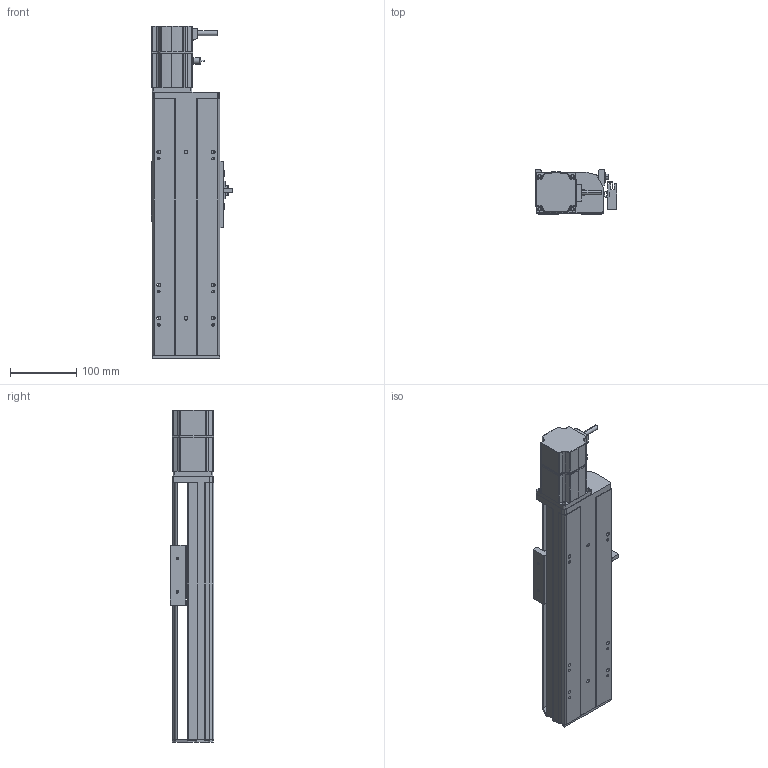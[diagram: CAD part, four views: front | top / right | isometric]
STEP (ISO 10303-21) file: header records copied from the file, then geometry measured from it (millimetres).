
FILE_DESCRIPTION (( 'STEP AP203' ), '1' );
FILE_NAME ('XYH10-BC-150.STEP', '2023-02-25T09:08:31', ( '微软用户' ), ( '微软中国' ), 'SwSTEP 2.0', 'SolidWorks 2016', '' );
FILE_SCHEMA (( 'CONFIG_CONTROL_DESIGN' ));
Length unit declared in the file: millimetre
Products named in the file (8): _X2_514996FB56FA5B9A689D_X0_100mm; 672; D10_X2_514996FB611F61C97247_X0_; ETH10_X2_6ED15EA7_X0_; XYH10-GY-001耜醱啣; XYH10-BC-150; ETH10-_X2_672C9AD4_X0_-BC-200W; _X2_4E0983F1_X0_200W
Assembly tree (7 placements, depth 2):
  XYH10-BC-150
    ETH10-_X2_672C9AD4_X0_-BC-200W
    _X2_4E0983F1_X0_200W
    _X2_514996FB56FA5B9A689D_X0_100mm
    672
    D10_X2_514996FB611F61C97247_X0_
    ETH10_X2_6ED15EA7_X0_
    XYH10-GY-001耜醱啣
Bounding box: 123.2 x 66 x 499.5 mm (x, y, z)
Volume: 1417124.4 mm3; surface area: 320749.5 mm2
Topology: 8 solids, 8 shells, 714 faces, 1862 edges, 1188 vertices
Faces by surface type: cylinder 314, plane 303, bspline 79, cone 12, torus 6
Entity records: 24108 total; most frequent: CARTESIAN_POINT 5661, DIRECTION 3731, ORIENTED_EDGE 3700, EDGE_CURVE 1850, AXIS2_PLACEMENT_3D 1350, VERTEX_POINT 1188, VECTOR 1031, LINE 1031
